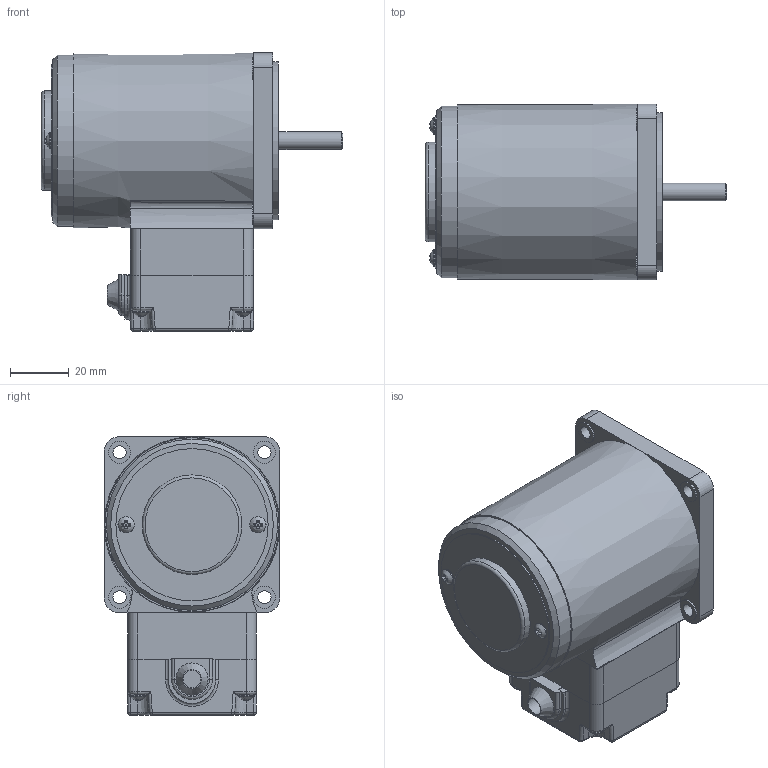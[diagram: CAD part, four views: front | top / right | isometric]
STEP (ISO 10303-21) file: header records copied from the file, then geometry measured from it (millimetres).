
FILE_DESCRIPTION(/* description */ (''),/* implementation_level */ '2;1');
FILE_NAME(/* name */ 'E:\도면작업\2016\0704) 미주향 SG 도면\3D MOTOR\TERMINAL BOX TYPE\REVERSIBLE TERMINAL BOX\SG6R06S_-T.stp',/* time_stamp */ '2017-01-24T08:32:19+09:00',/* author */ ('jy-jung'),/* organization */ (''),/* preprocessor_version */ 'ST-DEVELOPER v15.6',/* originating_system */ 'Autodesk Inventor 2015',/* authorisation */ '');
FILE_SCHEMA (('AUTOMOTIVE_DESIGN { 1 0 10303 214 3 1 1 }'));
Length unit declared in the file: millimetre
Products named in the file (1): 부품1
Bounding box: 103 x 60 x 95 mm (x, y, z)
Volume: 251591.8 mm3; surface area: 44246.1 mm2
Topology: 1 solids, 9 shells, 600 faces, 1538 edges, 959 vertices
Faces by surface type: plane 308, cylinder 202, torus 39, cone 18, bspline 17, sphere 16
Full cylindrical faces by diameter (mm): 2.5 x2, 3 x6, 3.5 x10, 4.5 x4, 5.6 x6, 6 x2, 7.5 x4, 8 x1, 25 x1, 34 x1, 52 x1, 54 x1, 58.5 x1
Entity records: 19022 total; most frequent: CARTESIAN_POINT 4040, DIRECTION 3015, ORIENTED_EDGE 2894, EDGE_CURVE 1447, AXIS2_PLACEMENT_3D 1088, VERTEX_POINT 951, LINE 839, VECTOR 839
